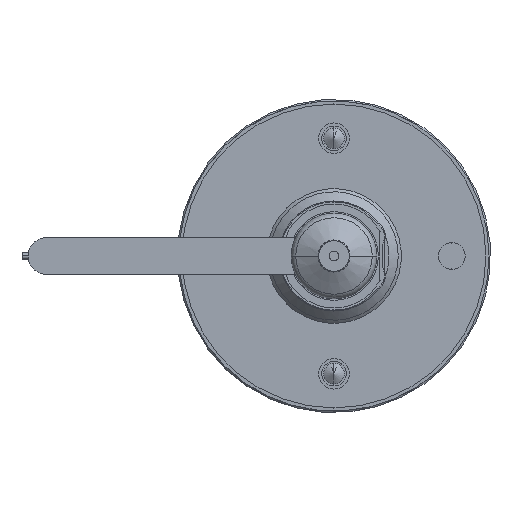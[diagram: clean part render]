
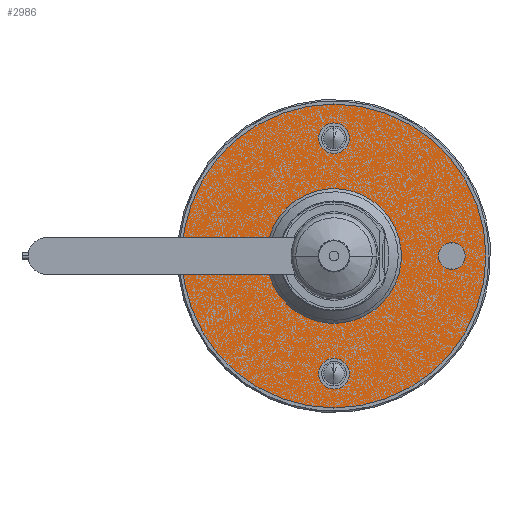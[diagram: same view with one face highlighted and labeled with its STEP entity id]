
A CAD part, front view. The second image highlights one B-rep face of the part: STEP entity #2986.
In plain terms, the highlighted planar face has unit normal (0, -1, 0) as drawn and (0, 0, -1) by its records, which use the part's own axes.
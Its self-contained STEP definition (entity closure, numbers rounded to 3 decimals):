
#626 = CARTESIAN_POINT ( 'NONE',  ( 49.675, 0., 0. ) ) ;
#906 = EDGE_CURVE ( 'NONE', #8768, #26988, #3211, .T. ) ;
#1214 = FACE_BOUND ( 'NONE', #4434, .T. ) ;
#1276 = DIRECTION ( 'NONE',  ( -1., 0., 0. ) ) ;
#1303 = CIRCLE ( 'NONE', #20552, 4.4 ) ;
#1542 = CIRCLE ( 'NONE', #4490, 5. ) ;
#2302 = ORIENTED_EDGE ( 'NONE', *, *, #8557, .T. ) ;
#2371 = EDGE_LOOP ( 'NONE', ( #2302, #5412 ) ) ;
#2440 = VERTEX_POINT ( 'NONE', #29220 ) ;
#2665 = CIRCLE ( 'NONE', #12047, 4.4 ) ;
#2745 = EDGE_CURVE ( 'NONE', #8951, #16227, #3161, .T. ) ;
#2869 = CARTESIAN_POINT ( 'NONE',  ( -4.4, 38.5, 0. ) ) ;
#2957 = DIRECTION ( 'NONE',  ( 0., 0., 1. ) ) ;
#2986 = ADVANCED_FACE ( 'NONE', ( #18268, #27650, #22379, #1214, #12340, #12797 ), #21772, .T. ) ;
#3139 = CARTESIAN_POINT ( 'NONE',  ( 43.5, 0., 0. ) ) ;
#3161 = CIRCLE ( 'NONE', #7599, 16.5 ) ;
#3211 = CIRCLE ( 'NONE', #20499, 49.675 ) ;
#3297 = CIRCLE ( 'NONE', #5753, 5. ) ;
#3697 = CARTESIAN_POINT ( 'NONE',  ( 38.5, 0., 0. ) ) ;
#3910 = CARTESIAN_POINT ( 'NONE',  ( 0., 0., 0. ) ) ;
#4025 = DIRECTION ( 'NONE',  ( 0., 0., 1. ) ) ;
#4233 = ORIENTED_EDGE ( 'NONE', *, *, #27925, .T. ) ;
#4278 = CARTESIAN_POINT ( 'NONE',  ( -16.5, 0., 0. ) ) ;
#4434 = EDGE_LOOP ( 'NONE', ( #18291, #16180 ) ) ;
#4490 = AXIS2_PLACEMENT_3D ( 'NONE', #11633, #25370, #29815 ) ;
#4528 = CARTESIAN_POINT ( 'NONE',  ( 0., 0., 0. ) ) ;
#4641 = VERTEX_POINT ( 'NONE', #26355 ) ;
#4645 = AXIS2_PLACEMENT_3D ( 'NONE', #26913, #26464, #5331 ) ;
#4740 = EDGE_CURVE ( 'NONE', #25965, #4641, #1303, .T. ) ;
#5331 = DIRECTION ( 'NONE',  ( -1., 0., 0. ) ) ;
#5391 = CARTESIAN_POINT ( 'NONE',  ( 16.5, 0., 0. ) ) ;
#5412 = ORIENTED_EDGE ( 'NONE', *, *, #17741, .T. ) ;
#5470 = CARTESIAN_POINT ( 'NONE',  ( -49.675, 0., 0. ) ) ;
#5753 = AXIS2_PLACEMENT_3D ( 'NONE', #28842, #7562, #7728 ) ;
#6150 = CIRCLE ( 'NONE', #10062, 16.5 ) ;
#6434 = CARTESIAN_POINT ( 'NONE',  ( 0., 38.5, 0. ) ) ;
#7117 = AXIS2_PLACEMENT_3D ( 'NONE', #24735, #19672, #1276 ) ;
#7119 = DIRECTION ( 'NONE',  ( -1., 0., 0. ) ) ;
#7244 = ORIENTED_EDGE ( 'NONE', *, *, #2745, .T. ) ;
#7245 = DIRECTION ( 'NONE',  ( -1., 0., 0. ) ) ;
#7265 = DIRECTION ( 'NONE',  ( 0., 0., 1. ) ) ;
#7562 = DIRECTION ( 'NONE',  ( 0., 0., 1. ) ) ;
#7599 = AXIS2_PLACEMENT_3D ( 'NONE', #3910, #22456, #18123 ) ;
#7690 = EDGE_CURVE ( 'NONE', #22681, #9775, #2665, .T. ) ;
#7714 = ORIENTED_EDGE ( 'NONE', *, *, #906, .T. ) ;
#7728 = DIRECTION ( 'NONE',  ( -1., 0., 0. ) ) ;
#7893 = DIRECTION ( 'NONE',  ( -1., 0., 0. ) ) ;
#8091 = EDGE_LOOP ( 'NONE', ( #7714, #19688 ) ) ;
#8463 = DIRECTION ( 'NONE',  ( 0., 0., 1. ) ) ;
#8557 = EDGE_CURVE ( 'NONE', #22927, #2440, #12067, .T. ) ;
#8749 = DIRECTION ( 'NONE',  ( 0., 0., 1. ) ) ;
#8768 = VERTEX_POINT ( 'NONE', #626 ) ;
#8951 = VERTEX_POINT ( 'NONE', #14980 ) ;
#9120 = EDGE_LOOP ( 'NONE', ( #7244, #17885 ) ) ;
#9193 = CIRCLE ( 'NONE', #17579, 4.4 ) ;
#9775 = VERTEX_POINT ( 'NONE', #2869 ) ;
#9893 = CARTESIAN_POINT ( 'NONE',  ( 0., 0., 0. ) ) ;
#10062 = AXIS2_PLACEMENT_3D ( 'NONE', #9893, #7265, #19322 ) ;
#11197 = VERTEX_POINT ( 'NONE', #3139 ) ;
#11423 = VERTEX_POINT ( 'NONE', #15948 ) ;
#11597 = EDGE_LOOP ( 'NONE', ( #25550, #4233 ) ) ;
#11633 = CARTESIAN_POINT ( 'NONE',  ( 38.5, 0., 0. ) ) ;
#11844 = EDGE_CURVE ( 'NONE', #9775, #22681, #9193, .T. ) ;
#12047 = AXIS2_PLACEMENT_3D ( 'NONE', #6434, #8749, #25413 ) ;
#12067 = CIRCLE ( 'NONE', #7117, 5. ) ;
#12205 = AXIS2_PLACEMENT_3D ( 'NONE', #5391, #19616, #7119 ) ;
#12340 = FACE_BOUND ( 'NONE', #2371, .T. ) ;
#12797 = FACE_BOUND ( 'NONE', #9120, .T. ) ;
#12872 = CARTESIAN_POINT ( 'NONE',  ( 4.4, 38.5, 0. ) ) ;
#13543 = DIRECTION ( 'NONE',  ( 0., 0., 1. ) ) ;
#13805 = EDGE_CURVE ( 'NONE', #11197, #11423, #24601, .T. ) ;
#13928 = CIRCLE ( 'NONE', #21849, 4.4 ) ;
#14980 = CARTESIAN_POINT ( 'NONE',  ( 16.5, 0., 0. ) ) ;
#15948 = CARTESIAN_POINT ( 'NONE',  ( 33.5, 0., 0. ) ) ;
#16180 = ORIENTED_EDGE ( 'NONE', *, *, #13805, .T. ) ;
#16227 = VERTEX_POINT ( 'NONE', #4278 ) ;
#16918 = ORIENTED_EDGE ( 'NONE', *, *, #11844, .T. ) ;
#17579 = AXIS2_PLACEMENT_3D ( 'NONE', #18087, #4025, #7245 ) ;
#17741 = EDGE_CURVE ( 'NONE', #2440, #22927, #3297, .T. ) ;
#17885 = ORIENTED_EDGE ( 'NONE', *, *, #20566, .T. ) ;
#18087 = CARTESIAN_POINT ( 'NONE',  ( 0., 38.5, 0. ) ) ;
#18123 = DIRECTION ( 'NONE',  ( 1., 0., 0. ) ) ;
#18268 = FACE_OUTER_BOUND ( 'NONE', #8091, .T. ) ;
#18291 = ORIENTED_EDGE ( 'NONE', *, *, #24145, .T. ) ;
#18483 = CARTESIAN_POINT ( 'NONE',  ( 0., -38.5, 0. ) ) ;
#18593 = DIRECTION ( 'NONE',  ( -1., 0., 0. ) ) ;
#18664 = DIRECTION ( 'NONE',  ( -1., 0., 0. ) ) ;
#19322 = DIRECTION ( 'NONE',  ( 1., 0., 0. ) ) ;
#19501 = CARTESIAN_POINT ( 'NONE',  ( 0., -38.5, 0. ) ) ;
#19616 = DIRECTION ( 'NONE',  ( 0., 0., -1. ) ) ;
#19672 = DIRECTION ( 'NONE',  ( 0., 0., 1. ) ) ;
#19688 = ORIENTED_EDGE ( 'NONE', *, *, #20000, .T. ) ;
#20000 = EDGE_CURVE ( 'NONE', #26988, #8768, #22431, .T. ) ;
#20300 = ORIENTED_EDGE ( 'NONE', *, *, #7690, .T. ) ;
#20499 = AXIS2_PLACEMENT_3D ( 'NONE', #4528, #21081, #18593 ) ;
#20552 = AXIS2_PLACEMENT_3D ( 'NONE', #18483, #13543, #23121 ) ;
#20566 = EDGE_CURVE ( 'NONE', #16227, #8951, #6150, .T. ) ;
#21081 = DIRECTION ( 'NONE',  ( 0., 0., -1. ) ) ;
#21772 = PLANE ( 'NONE',  #12205 ) ;
#21849 = AXIS2_PLACEMENT_3D ( 'NONE', #19501, #2957, #7893 ) ;
#22379 = FACE_BOUND ( 'NONE', #27844, .T. ) ;
#22431 = CIRCLE ( 'NONE', #4645, 49.675 ) ;
#22456 = DIRECTION ( 'NONE',  ( 0., 0., 1. ) ) ;
#22681 = VERTEX_POINT ( 'NONE', #12872 ) ;
#22927 = VERTEX_POINT ( 'NONE', #27282 ) ;
#23121 = DIRECTION ( 'NONE',  ( -1., 0., 0. ) ) ;
#23767 = CARTESIAN_POINT ( 'NONE',  ( -4.4, -38.5, 0. ) ) ;
#24145 = EDGE_CURVE ( 'NONE', #11423, #11197, #1542, .T. ) ;
#24601 = CIRCLE ( 'NONE', #26574, 5. ) ;
#24735 = CARTESIAN_POINT ( 'NONE',  ( -38.5, 0., 0. ) ) ;
#25370 = DIRECTION ( 'NONE',  ( 0., 0., 1. ) ) ;
#25413 = DIRECTION ( 'NONE',  ( -1., 0., 0. ) ) ;
#25550 = ORIENTED_EDGE ( 'NONE', *, *, #4740, .T. ) ;
#25965 = VERTEX_POINT ( 'NONE', #23767 ) ;
#26355 = CARTESIAN_POINT ( 'NONE',  ( 4.4, -38.5, 0. ) ) ;
#26464 = DIRECTION ( 'NONE',  ( 0., 0., -1. ) ) ;
#26574 = AXIS2_PLACEMENT_3D ( 'NONE', #3697, #8463, #18664 ) ;
#26913 = CARTESIAN_POINT ( 'NONE',  ( 0., 0., 0. ) ) ;
#26988 = VERTEX_POINT ( 'NONE', #5470 ) ;
#27282 = CARTESIAN_POINT ( 'NONE',  ( -43.5, 0., 0. ) ) ;
#27650 = FACE_BOUND ( 'NONE', #11597, .T. ) ;
#27844 = EDGE_LOOP ( 'NONE', ( #16918, #20300 ) ) ;
#27925 = EDGE_CURVE ( 'NONE', #4641, #25965, #13928, .T. ) ;
#28842 = CARTESIAN_POINT ( 'NONE',  ( -38.5, 0., 0. ) ) ;
#29220 = CARTESIAN_POINT ( 'NONE',  ( -33.5, 0., 0. ) ) ;
#29815 = DIRECTION ( 'NONE',  ( -1., 0., 0. ) ) ;
